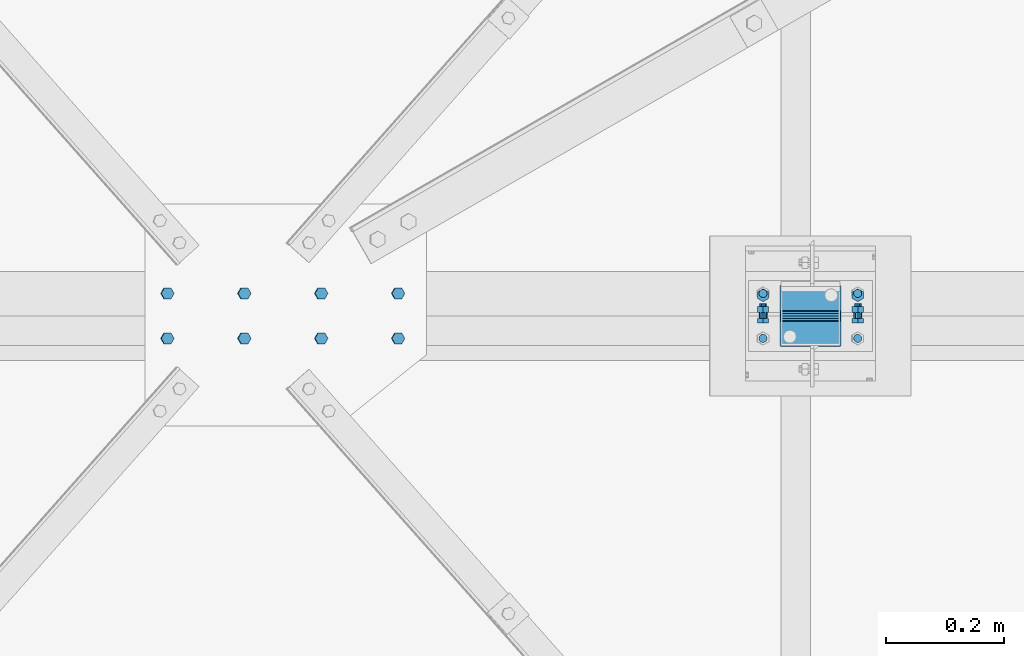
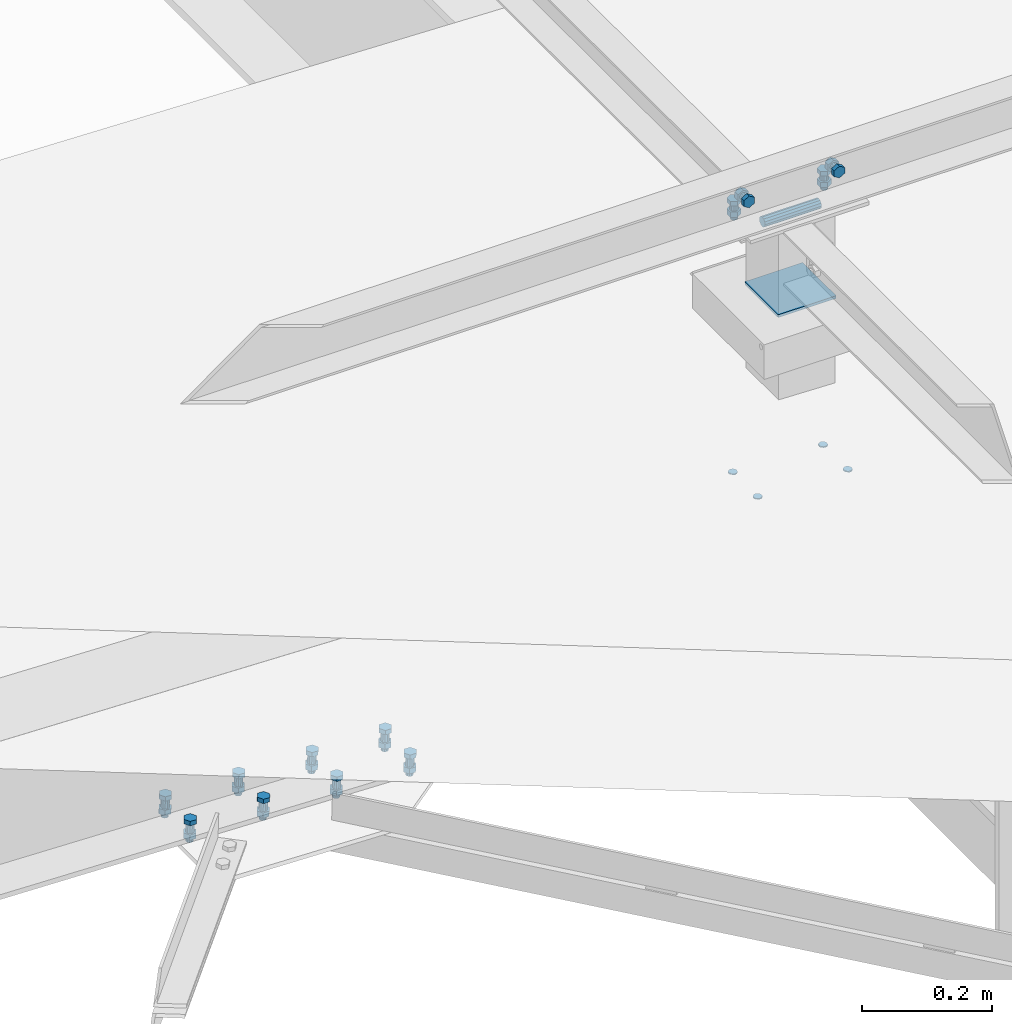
# One storey, part 332 of 3134: 6 mechanical fasteners, 4 elements without a shape of their own.
"""IFC2X3 building model written with IfcOpenShell, lengths in millimetres."""

import ifcopenshell
import ifcopenshell.guid

model = None  # the IFC model being written
_history = None  # IfcOwnerHistory: only IFC2X3 demands one
_inside = {}  # id of a spatial element -> (the spatial element, [elements in it])
_under = {}  # id of a project, library or spatial element -> (it, [spatial elements below it])
_declared = {}  # id of a project -> (the project, [libraries it declares])
_typed = {}  # id of a type object -> (the type object, [elements of that type])
_made_of = {}  # id of a material, layer set ... -> (it, [elements and type objects made of it])


def new_model(schema):
    """Start an empty IFC model of exactly this schema.

    Asked for "IFC4X3", IfcOpenShell would pick the latest addendum, in which some entities
    have other attributes; the version numbers below select the first issue.
    IFC2X3 requires an IfcOwnerHistory on every rooted entity: one is made here for all.
    """
    global model, _history
    if schema == "IFC4X3":
        model = ifcopenshell.file(schema_version=(4, 3, 0, 0))
    else:
        model = ifcopenshell.file(schema=schema)
    _inside.clear()
    _under.clear()
    _declared.clear()
    _typed.clear()
    _made_of.clear()
    _history = None
    if model.schema == "IFC2X3":
        org = make("IfcOrganization", Name="unknown")
        user = make(
            "IfcPersonAndOrganization",
            ThePerson=make("IfcPerson", FamilyName="unknown"),
            TheOrganization=org,
        )
        app = make(
            "IfcApplication",
            ApplicationDeveloper=org,
            Version="unknown",
            ApplicationFullName="unknown",
            ApplicationIdentifier="unknown",
        )
        _history = make(
            "IfcOwnerHistory",
            OwningUser=user,
            OwningApplication=app,
            ChangeAction="ADDED",
            CreationDate=0,
        )
    return model


def make(cls, **values):
    """One entity of the class cls with the attributes given. An attribute that is None is left unset."""
    return model.create_entity(
        cls, **{name: value for name, value in values.items() if value is not None}
    )


def rooted(cls, **values):
    """An entity with a GlobalId (a new one), such as an element, a storey or a relation."""
    return make(cls, GlobalId=ifcopenshell.guid.new(), OwnerHistory=_history, **values)


def si_unit(unit_type, name, prefix=None):
    """IfcSIUnit, for example si_unit("LENGTHUNIT", "METRE", prefix="MILLI")."""
    return make("IfcSIUnit", UnitType=unit_type, Prefix=prefix, Name=name)


def assignment(units):
    """IfcUnitAssignment: the units of a project."""
    return None if units is None else make("IfcUnitAssignment", Units=units)


def point(xyz):
    """IfcCartesianPoint."""
    return None if xyz is None else make("IfcCartesianPoint", Coordinates=xyz)


def direction(xyz):
    """IfcDirection."""
    return None if xyz is None else make("IfcDirection", DirectionRatios=xyz)


def frame(location, z_axis=None, x_axis=None):
    """IfcAxis2Placement3D, a coordinate frame: its origin and axes. An axis left out is left unset."""
    return make(
        "IfcAxis2Placement3D",
        Location=point(location),
        Axis=direction(z_axis),
        RefDirection=direction(x_axis),
    )


def origin_with_axes():
    """The frame at (0, 0, 0) with the z axis (0, 0, 1) and the x axis (1, 0, 0) written out."""
    return frame((0.0, 0.0, 0.0), z_axis=(0.0, 0.0, 1.0), x_axis=(1.0, 0.0, 0.0))


def place(relative_to, where):
    """IfcLocalPlacement: puts the frame where relative to a parent placement (None: the world)."""
    return make(
        "IfcLocalPlacement", PlacementRelTo=relative_to, RelativePlacement=where
    )


def context(
    kind, dimensions, precision=None, world=None, true_north=None, identifier=None
):
    """IfcGeometricRepresentationContext, for example the 3D "Model" context."""
    return make(
        "IfcGeometricRepresentationContext",
        ContextIdentifier=identifier,
        ContextType=kind,
        CoordinateSpaceDimension=dimensions,
        Precision=precision,
        WorldCoordinateSystem=world,
        TrueNorth=true_north,
    )


def subcontext(parent, identifier, kind, view, scale=None):
    """IfcGeometricRepresentationSubContext, for example "Body" below "Model"."""
    return make(
        "IfcGeometricRepresentationSubContext",
        ContextIdentifier=identifier,
        ContextType=kind,
        ParentContext=parent,
        TargetScale=scale,
        TargetView=view,
    )


def project(units=None, contexts=None):
    """IfcProject with its units and contexts."""
    return rooted(
        "IfcProject",
        Name="project",
        RepresentationContexts=contexts,
        UnitsInContext=assignment(units),
    )


def spatial(cls, under=None, at=None, **own):
    """A site, building, storey or space (cls), placed at a placement, below another one or the project."""
    s = rooted(cls, ObjectPlacement=at, **own)
    if under is not None:
        _under.setdefault(under.id(), (under, []))[1].append(s)
    return s


def faces_of(points, faces, orient=None, outer=None):
    """IfcFace entities. A face is a list of loops; a loop is a list of indices into points, from 0.

    orient and outer hold one flag for each loop. By default every Orientation is true, the
    first loop of a face is its IfcFaceOuterBound and the others are IfcFaceBound.
    """
    made = []
    for i, loops in enumerate(faces):
        bounds = []
        for j, loop in enumerate(loops):
            is_outer = j == 0 if outer is None else outer[i][j]
            bounds.append(
                make(
                    "IfcFaceOuterBound" if is_outer else "IfcFaceBound",
                    Bound=make("IfcPolyLoop", Polygon=[points[k] for k in loop]),
                    Orientation=True if orient is None else orient[i][j],
                )
            )
        made.append(make("IfcFace", Bounds=bounds))
    return made


def faceted_brep(points, faces, orient=None, outer=None, voids=None):
    """IfcFacetedBrep: a solid bounded by flat faces; with voids (closed shells), ...WithVoids."""
    shared = [point(p) for p in points]
    hull = make("IfcClosedShell", CfsFaces=faces_of(shared, faces, orient, outer))
    if voids is None:
        return make("IfcFacetedBrep", Outer=hull)
    return make(
        "IfcFacetedBrepWithVoids",
        Outer=hull,
        Voids=[
            make(cls, CfsFaces=faces_of(shared, fs, o, b)) for cls, fs, o, b in voids
        ],
    )


def shape(context_of_items, identifier, shape_type, items):
    """IfcShapeRepresentation: the items that make up one representation, for example the "Body"."""
    return make(
        "IfcShapeRepresentation",
        ContextOfItems=context_of_items,
        RepresentationIdentifier=identifier,
        RepresentationType=shape_type,
        Items=items,
    )


def source(mapping_origin, context_of_items, identifier, shape_type, items):
    """IfcRepresentationMap: a shape defined once, which mapped items show again and again."""
    return make(
        "IfcRepresentationMap",
        MappingOrigin=mapping_origin,
        MappedRepresentation=shape(context_of_items, identifier, shape_type, items),
    )


def transform(
    local_origin,
    x_axis=None,
    y_axis=None,
    z_axis=None,
    scale=None,
    scale2=None,
    scale3=None,
    uniform=True,
):
    """IfcCartesianTransformationOperator3D, or its non-uniform kind. x_axis, y_axis, z_axis: its Axis1, 2, 3."""
    if uniform:
        return make(
            "IfcCartesianTransformationOperator3D",
            Axis1=direction(x_axis),
            Axis2=direction(y_axis),
            LocalOrigin=point(local_origin),
            Scale=scale,
            Axis3=direction(z_axis),
        )
    return make(
        "IfcCartesianTransformationOperator3DnonUniform",
        Axis1=direction(x_axis),
        Axis2=direction(y_axis),
        LocalOrigin=point(local_origin),
        Scale=scale,
        Axis3=direction(z_axis),
        Scale2=scale2,
        Scale3=scale3,
    )


def mapped(mapping_source, mapping_target):
    """IfcMappedItem: shows the shape of a source again, moved by a transform."""
    return make(
        "IfcMappedItem", MappingSource=mapping_source, MappingTarget=mapping_target
    )


def material(Name=None, Category=None):
    """IfcMaterial."""
    return make("IfcMaterial", Name=Name, Category=Category)


def made_of(thing, what):
    """Note that an element or type object is made of a material, layer set ...; save() writes the relation."""
    if what is not None:
        _made_of.setdefault(what.id(), (what, []))[1].append(thing)
    return thing


def type_object(cls, material=None, **own):
    """A type object (cls), such as IfcWallType, which elements share."""
    return made_of(rooted(cls, **own), material)


def element(
    cls,
    number,
    at=None,
    inside=None,
    cuts=None,
    type_object=None,
    material=None,
    context=None,
    identifier="Body",
    shape_type=None,
    held_by="IfcProductDefinitionShape",
    body=None,
    shapes=None,
    **own,
):
    """One element of the class cls, such as IfcWall. Its Tag is "e" and its number.

    at: its placement. inside: the storey or other place that contains it. cuts: it is an
    opening in that element (IfcRelVoidsElement). A single representation is given by context,
    identifier, shape_type and body (its items); several are given by shapes. held_by: the class
    of the entity that holds the representations. save() writes the other relations.
    """
    e = rooted(cls, Tag="e%d" % number, ObjectPlacement=at, **own)
    if body is not None:
        shapes = [shape(context, identifier, shape_type, body)]
    if shapes is not None:
        e.Representation = make(held_by, Representations=shapes)
    if inside is not None:
        _inside.setdefault(inside.id(), (inside, []))[1].append(e)
    if cuts is not None:
        rooted(
            "IfcRelVoidsElement", RelatingBuildingElement=cuts, RelatedOpeningElement=e
        )
    if type_object is not None:
        _typed.setdefault(type_object.id(), (type_object, []))[1].append(e)
    return made_of(e, material)


def aggregate(whole, parts):
    """IfcRelAggregates: a whole, such as a stair, and the parts it consists of."""
    return rooted("IfcRelAggregates", RelatingObject=whole, RelatedObjects=parts)


def save(model, path):
    """Write the relations noted so far, then the file.

    IfcRelAggregates (storeys below a building ...), IfcRelContainedInSpatialStructure (elements
    in a storey), IfcRelDefinesByType, IfcRelAssociatesMaterial and IfcRelDeclares: one each for
    every whole, place, type object, material and project.
    """
    for whole, parts in _under.values():
        aggregate(whole, parts)
    for where, things in _inside.values():
        rooted(
            "IfcRelContainedInSpatialStructure",
            RelatedElements=things,
            RelatingStructure=where,
        )
    for kind, things in _typed.values():
        rooted("IfcRelDefinesByType", RelatedObjects=things, RelatingType=kind)
    for what, things in _made_of.values():
        rooted("IfcRelAssociatesMaterial", RelatedObjects=things, RelatingMaterial=what)
    for by, libraries in _declared.values():
        rooted("IfcRelDeclares", RelatingContext=by, RelatedDefinitions=libraries)
    model.write(path)


model = new_model("IFC2X3")

# Units and contexts
model_context = context("Model", 3, precision=1e-05, world=origin_with_axes())
body_context = subcontext(model_context, "Body", "Model", "MODEL_VIEW")
ifc_project = project(units=[si_unit("LENGTHUNIT", "METRE", prefix="MILLI"), si_unit("AREAUNIT", "SQUARE_METRE"), si_unit("VOLUMEUNIT", "CUBIC_METRE"), si_unit("MASSUNIT", "GRAM", prefix="KILO"), si_unit("TIMEUNIT", "SECOND"), si_unit("PLANEANGLEUNIT", "RADIAN"), si_unit("SOLIDANGLEUNIT", "STERADIAN"), si_unit("THERMODYNAMICTEMPERATUREUNIT", "DEGREE_CELSIUS"), si_unit("LUMINOUSINTENSITYUNIT", "LUMEN")], contexts=[model_context])

# Site, building, storey
site_placement = place(None, origin_with_axes())
site = spatial("IfcSite", under=ifc_project, at=site_placement, CompositionType="ELEMENT")
building_placement = place(site_placement, origin_with_axes())
building = spatial("IfcBuilding", under=site, at=building_placement, Name="Undefined", CompositionType="ELEMENT")
storey_placement = place(building_placement, origin_with_axes())
storey = spatial("IfcBuildingStorey", under=building, at=storey_placement, Name="Undefined", CompositionType="ELEMENT", Elevation=0.0)

# Assembly, mechanical fastener
assembly_1_placement = place(storey_placement, origin_with_axes())
assembly_1 = element("IfcElementAssembly", 1, at=assembly_1_placement, inside=storey, AssemblyPlace="NOTDEFINED", PredefinedType="RIGID_FRAME")
ifc_material_1 = material(Name="8.8")
mechanical_fastener_type = type_object("IfcMechanicalFastenerType", Name="Bolt assembly")
shared_shape_1 = source(origin_with_axes(), body_context, "Body", "Brep", [
    faceted_brep([(10.9696551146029, -14.0, 0.0), (5.48482755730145, -14.0, 9.5), (-5.48482755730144, -14.0, 9.5), (-10.9696551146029, -14.0, 1.34339530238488e-15), (-5.48482755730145, -14.0, -9.5), (5.48482755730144, -14.0, -9.50000000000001), (5.48482755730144, -6.0, -9.50000000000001), (-5.48482755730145, -6.0, -9.5), (-10.9696551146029, -6.0, 1.34339530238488e-15), (-5.48482755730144, -6.0, 9.5), (5.48482755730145, -6.0, 9.5), (10.9696551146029, -6.0, 0.0), (6.0, -6.0, 0.0), (5.19615242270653, -6.0, 3.00000000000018), (2.99999999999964, -6.0, 5.19615242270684), (-6.21801588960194e-13, -6.0, 6.0), (-3.00000000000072, -6.0, 5.19615242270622), (-5.19615242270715, -6.0, 2.9999999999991), (-6.0, -6.0, -1.24360317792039e-12), (-5.19615242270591, -6.0, -3.00000000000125), (-2.99999999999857, -6.0, -5.19615242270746), (1.85874342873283e-12, -6.0, -6.0), (3.00000000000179, -6.0, -5.1961524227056), (5.19615242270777, -6.0, -2.99999999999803), (5.19615242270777, 24.0, -2.99999999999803), (3.00000000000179, 24.0, -5.1961524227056), (1.85874342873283e-12, 24.0, -6.0), (-2.99999999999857, 24.0, -5.19615242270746), (-5.19615242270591, 24.0, -3.00000000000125), (-6.0, 24.0, -1.24360317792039e-12), (-5.19615242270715, 24.0, 2.9999999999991), (-3.00000000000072, 24.0, 5.19615242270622), (-6.21801588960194e-13, 24.0, 6.0), (2.99999999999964, 24.0, 5.19615242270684), (5.19615242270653, 24.0, 3.00000000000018), (6.0, 24.0, 0.0), (10.9696551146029, 6.00000000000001, 0.0), (5.48482755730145, 6.00000000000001, 9.5), (-5.48482755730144, 6.00000000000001, 9.5), (-10.9696551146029, 6.00000000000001, 1.34339530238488e-15), (-5.48482755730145, 6.00000000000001, -9.5), (5.48482755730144, 6.00000000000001, -9.50000000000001), (5.48482755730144, 16.0, -9.50000000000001), (-5.48482755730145, 16.0, -9.5), (-10.9696551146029, 16.0, 1.34339530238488e-15), (-5.48482755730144, 16.0, 9.5), (5.48482755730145, 16.0, 9.5), (10.9696551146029, 16.0, 0.0)], [[[0, 1, 2, 3, 4, 5]], [[6, 7, 8, 9, 10, 11]], [[0, 11, 10, 1]], [[1, 10, 9, 2]], [[2, 9, 8, 3]], [[3, 8, 7, 4]], [[4, 7, 6, 5]], [[5, 6, 11, 0]], [[12, 13, 14, 15, 16, 17, 18, 19, 20, 21, 22, 23]], [[24, 25, 26, 27, 28, 29, 30, 31, 32, 33, 34, 35]], [[12, 35, 34, 13]], [[13, 34, 33, 14]], [[14, 33, 32, 15]], [[15, 32, 31, 16]], [[16, 31, 30, 17]], [[17, 30, 29, 18]], [[18, 29, 28, 19]], [[19, 28, 27, 20]], [[20, 27, 26, 21]], [[21, 26, 25, 22]], [[22, 25, 24, 23]], [[23, 24, 35, 12]], [[36, 37, 38, 39, 40, 41]], [[42, 43, 44, 45, 46, 47]], [[36, 47, 46, 37]], [[37, 46, 45, 38]], [[38, 45, 44, 39]], [[39, 44, 43, 40]], [[40, 43, 42, 41]], [[41, 42, 47, 36]]]),
    faceted_brep([(7.0, -0.1, 0.0), (6.06217782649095, -0.1, 3.50000000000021), (3.49999999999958, -0.1, 6.06217782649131), (-7.25435187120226e-13, -0.1, 7.0), (-3.50000000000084, -0.1, 6.06217782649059), (-6.06217782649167, -0.1, 3.49999999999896), (-7.0, -0.1, -1.45087037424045e-12), (-6.06217782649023, -0.1, -3.50000000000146), (-3.49999999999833, -0.1, -6.06217782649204), (2.1685340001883e-12, -0.1, -7.0), (3.50000000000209, -0.1, -6.06217782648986), (6.0621778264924, -0.1, -3.4999999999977), (6.0621778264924, 6.00000000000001, -3.4999999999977), (3.50000000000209, 6.00000000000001, -6.06217782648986), (2.1685340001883e-12, 6.00000000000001, -7.0), (-3.49999999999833, 6.00000000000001, -6.06217782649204), (-6.06217782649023, 6.00000000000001, -3.50000000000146), (-7.0, 6.00000000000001, -1.45087037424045e-12), (-6.06217782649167, 6.00000000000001, 3.49999999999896), (-3.50000000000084, 6.00000000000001, 6.06217782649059), (-7.25435187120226e-13, 6.00000000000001, 7.0), (3.49999999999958, 6.00000000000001, 6.06217782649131), (6.06217782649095, 6.00000000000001, 3.50000000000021), (7.0, 6.00000000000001, 0.0), (7.0, -5.9, 0.0), (6.06217782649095, -5.9, 3.50000000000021), (3.49999999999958, -5.9, 6.06217782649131), (-7.25435187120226e-13, -5.9, 7.0), (-3.50000000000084, -5.9, 6.06217782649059), (-6.06217782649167, -5.9, 3.49999999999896), (-7.0, -5.9, -1.45087037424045e-12), (-6.06217782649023, -5.9, -3.50000000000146), (-3.49999999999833, -5.9, -6.06217782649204), (2.1685340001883e-12, -5.9, -7.0), (3.50000000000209, -5.9, -6.06217782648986), (6.0621778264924, -5.9, -3.4999999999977), (6.0621778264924, 0.0999999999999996, -3.4999999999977), (3.50000000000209, 0.0999999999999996, -6.06217782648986), (2.1685340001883e-12, 0.0999999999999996, -7.0), (-3.49999999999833, 0.0999999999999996, -6.06217782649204), (-6.06217782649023, 0.0999999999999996, -3.50000000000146), (-7.0, 0.0999999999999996, -1.45087037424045e-12), (-6.06217782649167, 0.0999999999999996, 3.49999999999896), (-3.50000000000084, 0.0999999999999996, 6.06217782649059), (-7.25435187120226e-13, 0.0999999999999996, 7.0), (3.49999999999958, 0.0999999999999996, 6.06217782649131), (6.06217782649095, 0.0999999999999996, 3.50000000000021), (7.0, 0.0999999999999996, 0.0)], [[[0, 1, 2, 3, 4, 5, 6, 7, 8, 9, 10, 11]], [[12, 13, 14, 15, 16, 17, 18, 19, 20, 21, 22, 23]], [[0, 23, 22, 1]], [[1, 22, 21, 2]], [[2, 21, 20, 3]], [[3, 20, 19, 4]], [[4, 19, 18, 5]], [[5, 18, 17, 6]], [[6, 17, 16, 7]], [[7, 16, 15, 8]], [[8, 15, 14, 9]], [[9, 14, 13, 10]], [[10, 13, 12, 11]], [[11, 12, 23, 0]], [[24, 25, 26, 27, 28, 29, 30, 31, 32, 33, 34, 35]], [[36, 37, 38, 39, 40, 41, 42, 43, 44, 45, 46, 47]], [[24, 47, 46, 25]], [[25, 46, 45, 26]], [[26, 45, 44, 27]], [[27, 44, 43, 28]], [[28, 43, 42, 29]], [[29, 42, 41, 30]], [[30, 41, 40, 31]], [[31, 40, 39, 32]], [[32, 39, 38, 33]], [[33, 38, 37, 34]], [[34, 37, 36, 35]], [[35, 36, 47, 24]]]),
])
mechanical_fastener_1_placement = place(assembly_1_placement, frame((70600.0, 12405.0, 5850.0), z_axis=(1.0, 0.0, 0.0), x_axis=(0.0, -1.0, 0.0)))
mechanical_fastener_1 = element("IfcMechanicalFastener", 2, at=mechanical_fastener_1_placement, type_object=mechanical_fastener_type, material=ifc_material_1, Name="Bolt assembly", NominalDiameter=12.0, NominalLength=30.0, context=body_context, shape_type="MappedRepresentation", body=[
    mapped(shared_shape_1, transform((0.0, -5.32963895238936e-10, -79.9999999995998))),
    mapped(shared_shape_1, transform((0.0, 5.3114490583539e-10, 79.9999999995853))),
])

assembly_2_placement = place(storey_placement, origin_with_axes())
assembly_2 = element("IfcElementAssembly", 3, at=assembly_2_placement, inside=storey, AssemblyPlace="NOTDEFINED", PredefinedType="RIGID_FRAME")
shared_shape_2 = source(origin_with_axes(), body_context, "Body", "Brep", [
    faceted_brep([(7.0, 13.0000253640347, 0.0), (6.06217782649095, 13.0000253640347, 3.50000000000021), (3.49999999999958, 13.0000253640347, 6.06217782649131), (-7.25435187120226e-13, 13.0000253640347, 7.0), (-3.50000000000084, 13.0000253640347, 6.06217782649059), (-6.06217782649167, 13.0000253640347, 3.49999999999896), (-7.0, 13.0000253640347, -1.45087037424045e-12), (-6.06217782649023, 13.0000253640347, -3.50000000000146), (-3.49999999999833, 13.0000253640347, -6.06217782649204), (2.1685340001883e-12, 13.0000253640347, -7.0), (3.50000000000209, 13.0000253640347, -6.06217782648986), (6.0621778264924, 13.0000253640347, -3.4999999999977), (6.0621778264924, 15.0999999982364, -3.4999999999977), (3.50000000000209, 15.0999999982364, -6.06217782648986), (2.1685340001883e-12, 15.0999999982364, -7.0), (-3.49999999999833, 15.0999999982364, -6.06217782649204), (-6.06217782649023, 15.0999999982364, -3.50000000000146), (-7.0, 15.0999999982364, -1.45087037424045e-12), (-6.06217782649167, 15.0999999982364, 3.49999999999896), (-3.50000000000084, 15.0999999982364, 6.06217782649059), (-7.25435187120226e-13, 15.0999999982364, 7.0), (3.49999999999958, 15.0999999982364, 6.06217782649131), (6.06217782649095, 15.0999999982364, 3.50000000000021), (7.0, 15.0999999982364, 0.0)], [[[0, 1, 2, 3, 4, 5, 6, 7, 8, 9, 10, 11]], [[12, 13, 14, 15, 16, 17, 18, 19, 20, 21, 22, 23]], [[0, 23, 22, 1]], [[1, 22, 21, 2]], [[2, 21, 20, 3]], [[3, 20, 19, 4]], [[4, 19, 18, 5]], [[5, 18, 17, 6]], [[6, 17, 16, 7]], [[7, 16, 15, 8]], [[8, 15, 14, 9]], [[9, 14, 13, 10]], [[10, 13, 12, 11]], [[11, 12, 23, 0]]]),
])
mechanical_fastener_2_placement = place(assembly_2_placement, frame((70599.3451187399, 12408.0, 5332.4572055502), z_axis=(-0.99951962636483, 0.0, 0.0309922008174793), x_axis=(0.0, -1.0, 0.0)))
mechanical_fastener_2 = element("IfcMechanicalFastener", 4, at=mechanical_fastener_2_placement, type_object=mechanical_fastener_type, material=ifc_material_1, Name="Bolt assembly", NominalDiameter=12.0, NominalLength=2.0, context=body_context, shape_type="MappedRepresentation", body=[
    mapped(shared_shape_2, transform((0.0, -5.32963895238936e-10, -79.9999999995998))),
    mapped(shared_shape_2, transform((76.0, -5.32963895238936e-10, -79.9999999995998))),
    mapped(shared_shape_2, transform((0.0, 5.3114490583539e-10, 79.9999999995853))),
    mapped(shared_shape_2, transform((76.0, 5.3114490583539e-10, 79.9999999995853))),
])
aggregate(assembly_2, [mechanical_fastener_2])

# Assembly, mechanical fasteners
assembly_3_placement = place(storey_placement, origin_with_axes())
assembly_3 = element("IfcElementAssembly", 5, at=assembly_3_placement, inside=storey, AssemblyPlace="NOTDEFINED", PredefinedType="RIGID_FRAME")
shared_shape_3 = source(origin_with_axes(), body_context, "Body", "Brep", [
    faceted_brep([(9.0, -50.0, 0.0), (7.79422863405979, -50.0, 4.50000000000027), (4.49999999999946, -50.0, 7.79422863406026), (-9.3270238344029e-13, -50.0, 9.0), (-4.50000000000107, -50.0, 7.79422863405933), (-7.79422863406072, -50.0, 4.49999999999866), (-9.0, -50.0, -1.86540476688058e-12), (-7.79422863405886, -50.0, -4.50000000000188), (-4.49999999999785, -50.0, -7.79422863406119), (2.78811514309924e-12, -50.0, -9.0), (4.50000000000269, -50.0, -7.7942286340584), (7.79422863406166, -50.0, -4.49999999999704), (7.79422863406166, 50.1, -4.49999999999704), (4.50000000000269, 50.1, -7.7942286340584), (2.78811514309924e-12, 50.1, -9.0), (-4.49999999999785, 50.1, -7.79422863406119), (-7.79422863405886, 50.1, -4.50000000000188), (-9.0, 50.1, -1.86540476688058e-12), (-7.79422863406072, 50.1, 4.49999999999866), (-4.50000000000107, 50.1, 7.79422863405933), (-9.3270238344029e-13, 50.1, 9.0), (4.49999999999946, 50.1, 7.79422863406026), (7.79422863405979, 50.1, 4.50000000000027), (9.0, 50.1, 0.0)], [[[0, 1, 2, 3, 4, 5, 6, 7, 8, 9, 10, 11]], [[12, 13, 14, 15, 16, 17, 18, 19, 20, 21, 22, 23]], [[0, 23, 22, 1]], [[1, 22, 21, 2]], [[2, 21, 20, 3]], [[3, 20, 19, 4]], [[4, 19, 18, 5]], [[5, 18, 17, 6]], [[6, 17, 16, 7]], [[7, 16, 15, 8]], [[8, 15, 14, 9]], [[9, 14, 13, 10]], [[10, 13, 12, 11]], [[11, 12, 23, 0]]]),
])
mechanical_fastener_3_placement = place(assembly_3_placement, frame((70600.0, 12370.0, 5830.0), z_axis=(0.0, 1.0, 0.0), x_axis=(0.0, 0.0, 1.0)))
mechanical_fastener_3 = element("IfcMechanicalFastener", 6, at=mechanical_fastener_3_placement, type_object=mechanical_fastener_type, material=ifc_material_1, Name="Bolt assembly", NominalDiameter=16.0, NominalLength=100.0, context=body_context, shape_type="MappedRepresentation", body=[
    mapped(shared_shape_3, transform((0.0, 0.0, 0.0))),
])
ifc_material_2 = material(Name="6.8")
shared_shape_4 = source(origin_with_axes(), body_context, "Body", "Brep", [
    faceted_brep([(51.5, 1.36424205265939e-12, 50.0), (51.3858192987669, 1.36424205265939e-12, 50.5740251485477), (51.0606601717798, 1.36424205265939e-12, 51.0606601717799), (50.5740251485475, 1.36424205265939e-12, 51.385819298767), (-50.0000000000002, 1.36424205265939e-12, 51.5), (-50.7500000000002, 1.36424205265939e-12, 51.2990381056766), (-51.2990381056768, 1.36424205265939e-12, 50.7499999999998), (-51.5, 1.36424205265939e-12, 49.9999999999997), (-51.5, 1.36424205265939e-12, -50.0000000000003), (-51.2990381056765, 1.36424205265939e-12, -50.7500000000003), (-50.7499999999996, 1.36424205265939e-12, -51.2990381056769), (-49.9999999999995, 1.36424205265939e-12, -51.5), (50.0000000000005, 1.36424205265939e-12, -51.5), (50.7500000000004, 1.36424205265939e-12, -51.2990381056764), (51.2990381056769, 1.36424205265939e-12, -50.7499999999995), (51.5, 1.36424205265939e-12, -49.9999999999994), (51.5, 5.10000000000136, -49.9999999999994), (51.2990381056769, 5.10000000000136, -50.7499999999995), (50.7500000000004, 5.10000000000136, -51.2990381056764), (50.0000000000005, 5.10000000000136, -51.5), (-49.9999999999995, 5.10000000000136, -51.5), (-50.7499999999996, 5.10000000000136, -51.2990381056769), (-51.2990381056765, 5.10000000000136, -50.7500000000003), (-51.5, 5.10000000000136, -50.0000000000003), (-51.5, 5.10000000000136, 49.9999999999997), (-51.2990381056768, 5.10000000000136, 50.7499999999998), (-50.7500000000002, 5.10000000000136, 51.2990381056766), (-50.0000000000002, 5.10000000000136, 51.5), (50.5740251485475, 5.10000000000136, 51.385819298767), (51.0606601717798, 5.10000000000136, 51.0606601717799), (51.3858192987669, 5.10000000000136, 50.5740251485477), (51.5, 5.10000000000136, 50.0)], [[[0, 1, 2, 3, 4, 5, 6, 7, 8, 9, 10, 11, 12, 13, 14, 15]], [[16, 17, 18, 19, 20, 21, 22, 23, 24, 25, 26, 27, 28, 29, 30, 31]], [[0, 31, 30, 1]], [[1, 30, 29, 2]], [[2, 29, 28, 3]], [[3, 28, 27, 4]], [[4, 27, 26, 5]], [[5, 26, 25, 6]], [[6, 25, 24, 7]], [[7, 24, 23, 8]], [[8, 23, 22, 9]], [[9, 22, 21, 10]], [[10, 21, 20, 11]], [[11, 20, 19, 12]], [[12, 19, 18, 13]], [[13, 18, 17, 14]], [[14, 17, 16, 15]], [[15, 16, 31, 0]]]),
])
mechanical_fastener_4_placement = place(assembly_3_placement, frame((70600.0, 12370.0, 5687.16), z_axis=(0.0, -1.0, 0.0), x_axis=(-1.0, 0.0, 0.0)))
mechanical_fastener_4 = element("IfcMechanicalFastener", 7, at=mechanical_fastener_4_placement, type_object=mechanical_fastener_type, material=ifc_material_2, Name="Bolt assembly", NominalDiameter=10.0, NominalLength=5.0, context=body_context, shape_type="MappedRepresentation", body=[
    mapped(shared_shape_4, transform((0.0, 0.0, 0.0))),
])
aggregate(assembly_3, [mechanical_fastener_3, mechanical_fastener_4])

# Mechanical fastener
shared_shape_5 = source(origin_with_axes(), body_context, "Body", "Brep", [
    faceted_brep([(10.9696551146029, -12.0, 0.0), (5.48482755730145, -12.0, 9.5), (-5.48482755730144, -12.0, 9.5), (-10.9696551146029, -12.0, 1.34339530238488e-15), (-5.48482755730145, -12.0, -9.5), (5.48482755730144, -12.0, -9.50000000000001), (5.48482755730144, -4.0, -9.50000000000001), (-5.48482755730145, -4.0, -9.5), (-10.9696551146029, -4.0, 1.34339530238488e-15), (-5.48482755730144, -4.0, 9.5), (5.48482755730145, -4.0, 9.5), (10.9696551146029, -4.0, 0.0), (6.0, -4.0, 0.0), (5.19615242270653, -4.0, 3.00000000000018), (2.99999999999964, -4.0, 5.19615242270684), (-6.21801588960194e-13, -4.0, 6.0), (-3.00000000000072, -4.0, 5.19615242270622), (-5.19615242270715, -4.0, 2.9999999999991), (-6.0, -4.0, -1.24360317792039e-12), (-5.19615242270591, -4.0, -3.00000000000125), (-2.99999999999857, -4.0, -5.19615242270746), (1.85874342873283e-12, -4.0, -6.0), (3.00000000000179, -4.0, -5.1961524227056), (5.19615242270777, -4.0, -2.99999999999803), (5.19615242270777, 21.0, -2.99999999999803), (3.00000000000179, 21.0, -5.1961524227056), (1.85874342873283e-12, 21.0, -6.0), (-2.99999999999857, 21.0, -5.19615242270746), (-5.19615242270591, 21.0, -3.00000000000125), (-6.0, 21.0, -1.24360317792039e-12), (-5.19615242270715, 21.0, 2.9999999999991), (-3.00000000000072, 21.0, 5.19615242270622), (-6.21801588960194e-13, 21.0, 6.0), (2.99999999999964, 21.0, 5.19615242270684), (5.19615242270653, 21.0, 3.00000000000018), (6.0, 21.0, 0.0), (10.9696551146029, 6.00000000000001, 0.0), (5.48482755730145, 6.00000000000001, 9.5), (-5.48482755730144, 6.00000000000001, 9.5), (-10.9696551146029, 6.00000000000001, 1.34339530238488e-15), (-5.48482755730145, 6.00000000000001, -9.5), (5.48482755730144, 6.00000000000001, -9.50000000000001), (5.48482755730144, 16.0, -9.50000000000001), (-5.48482755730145, 16.0, -9.5), (-10.9696551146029, 16.0, 1.34339530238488e-15), (-5.48482755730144, 16.0, 9.5), (5.48482755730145, 16.0, 9.5), (10.9696551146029, 16.0, 0.0)], [[[0, 1, 2, 3, 4, 5]], [[6, 7, 8, 9, 10, 11]], [[0, 11, 10, 1]], [[1, 10, 9, 2]], [[2, 9, 8, 3]], [[3, 8, 7, 4]], [[4, 7, 6, 5]], [[5, 6, 11, 0]], [[12, 13, 14, 15, 16, 17, 18, 19, 20, 21, 22, 23]], [[24, 25, 26, 27, 28, 29, 30, 31, 32, 33, 34, 35]], [[12, 35, 34, 13]], [[13, 34, 33, 14]], [[14, 33, 32, 15]], [[15, 32, 31, 16]], [[16, 31, 30, 17]], [[17, 30, 29, 18]], [[18, 29, 28, 19]], [[19, 28, 27, 20]], [[20, 27, 26, 21]], [[21, 26, 25, 22]], [[22, 25, 24, 23]], [[23, 24, 35, 12]], [[36, 37, 38, 39, 40, 41]], [[42, 43, 44, 45, 46, 47]], [[36, 47, 46, 37]], [[37, 46, 45, 38]], [[38, 45, 44, 39]], [[39, 44, 43, 40]], [[40, 43, 42, 41]], [[41, 42, 47, 36]]]),
    faceted_brep([(7.0, -3.9, 0.0), (6.06217782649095, -3.9, 3.50000000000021), (3.49999999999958, -3.9, 6.06217782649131), (-7.25435187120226e-13, -3.9, 7.0), (-3.50000000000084, -3.9, 6.06217782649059), (-6.06217782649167, -3.9, 3.49999999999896), (-7.0, -3.9, -1.45087037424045e-12), (-6.06217782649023, -3.9, -3.50000000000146), (-3.49999999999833, -3.9, -6.06217782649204), (2.1685340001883e-12, -3.9, -7.0), (3.50000000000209, -3.9, -6.06217782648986), (6.0621778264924, -3.9, -3.4999999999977), (6.0621778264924, 0.0999999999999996, -3.4999999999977), (3.50000000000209, 0.0999999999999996, -6.06217782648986), (2.1685340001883e-12, 0.0999999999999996, -7.0), (-3.49999999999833, 0.0999999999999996, -6.06217782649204), (-6.06217782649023, 0.0999999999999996, -3.50000000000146), (-7.0, 0.0999999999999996, -1.45087037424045e-12), (-6.06217782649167, 0.0999999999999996, 3.49999999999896), (-3.50000000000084, 0.0999999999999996, 6.06217782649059), (-7.25435187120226e-13, 0.0999999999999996, 7.0), (3.49999999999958, 0.0999999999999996, 6.06217782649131), (6.06217782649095, 0.0999999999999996, 3.50000000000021), (7.0, 0.0999999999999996, 0.0), (7.0, -0.1, 0.0), (6.06217782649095, -0.1, 3.50000000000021), (3.49999999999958, -0.1, 6.06217782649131), (-7.25435187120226e-13, -0.1, 7.0), (-3.50000000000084, -0.1, 6.06217782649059), (-6.06217782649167, -0.1, 3.49999999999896), (-7.0, -0.1, -1.45087037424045e-12), (-6.06217782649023, -0.1, -3.50000000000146), (-3.49999999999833, -0.1, -6.06217782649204), (2.1685340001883e-12, -0.1, -7.0), (3.50000000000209, -0.1, -6.06217782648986), (6.0621778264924, -0.1, -3.4999999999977), (6.0621778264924, 6.00000000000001, -3.4999999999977), (3.50000000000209, 6.00000000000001, -6.06217782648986), (2.1685340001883e-12, 6.00000000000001, -7.0), (-3.49999999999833, 6.00000000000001, -6.06217782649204), (-6.06217782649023, 6.00000000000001, -3.50000000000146), (-7.0, 6.00000000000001, -1.45087037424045e-12), (-6.06217782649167, 6.00000000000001, 3.49999999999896), (-3.50000000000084, 6.00000000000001, 6.06217782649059), (-7.25435187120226e-13, 6.00000000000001, 7.0), (3.49999999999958, 6.00000000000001, 6.06217782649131), (6.06217782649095, 6.00000000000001, 3.50000000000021), (7.0, 6.00000000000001, 0.0)], [[[0, 1, 2, 3, 4, 5, 6, 7, 8, 9, 10, 11]], [[12, 13, 14, 15, 16, 17, 18, 19, 20, 21, 22, 23]], [[0, 23, 22, 1]], [[1, 22, 21, 2]], [[2, 21, 20, 3]], [[3, 20, 19, 4]], [[4, 19, 18, 5]], [[5, 18, 17, 6]], [[6, 17, 16, 7]], [[7, 16, 15, 8]], [[8, 15, 14, 9]], [[9, 14, 13, 10]], [[10, 13, 12, 11]], [[11, 12, 23, 0]], [[24, 25, 26, 27, 28, 29, 30, 31, 32, 33, 34, 35]], [[36, 37, 38, 39, 40, 41, 42, 43, 44, 45, 46, 47]], [[24, 47, 46, 25]], [[25, 46, 45, 26]], [[26, 45, 44, 27]], [[27, 44, 43, 28]], [[28, 43, 42, 29]], [[29, 42, 41, 30]], [[30, 41, 40, 31]], [[31, 40, 39, 32]], [[32, 39, 38, 33]], [[33, 38, 37, 34]], [[34, 37, 36, 35]], [[35, 36, 47, 24]]]),
])
mechanical_fastener_5_placement = place(assembly_1_placement, frame((70600.0, 12370.0, 5885.0), z_axis=(1.0, 0.0, 0.0), x_axis=(0.0, 0.0, -1.0)))
mechanical_fastener_5 = element("IfcMechanicalFastener", 8, at=mechanical_fastener_5_placement, type_object=mechanical_fastener_type, material=ifc_material_1, Name="Bolt assembly", NominalDiameter=12.0, NominalLength=25.0, context=body_context, shape_type="MappedRepresentation", body=[
    mapped(shared_shape_5, transform((0.0, -5.32963895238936e-10, -79.9999999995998))),
    mapped(shared_shape_5, transform((0.0, 5.3114490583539e-10, 79.9999999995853))),
])

aggregate(assembly_1, [mechanical_fastener_5, mechanical_fastener_1])

# Assembly, mechanical fastener
assembly_4_placement = place(storey_placement, origin_with_axes())
assembly_4 = element("IfcElementAssembly", 9, at=assembly_4_placement, inside=storey, Name="300", AssemblyPlace="NOTDEFINED", PredefinedType="RIGID_FRAME")
shared_shape_6 = source(origin_with_axes(), body_context, "Body", "Brep", [
    faceted_brep([(10.9696551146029, -21.2000017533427, 0.0), (5.48482755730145, -21.2000017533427, 9.5), (-5.48482755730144, -21.2000017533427, 9.5), (-10.9696551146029, -21.2000017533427, 1.34339530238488e-15), (-5.48482755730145, -21.2000017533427, -9.5), (5.48482755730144, -21.2000017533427, -9.50000000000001), (5.48482755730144, -13.2000017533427, -9.50000000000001), (-5.48482755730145, -13.2000017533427, -9.5), (-10.9696551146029, -13.2000017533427, 1.34339530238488e-15), (-5.48482755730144, -13.2000017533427, 9.5), (5.48482755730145, -13.2000017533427, 9.5), (10.9696551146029, -13.2000017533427, 0.0), (6.0, -13.2000017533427, 0.0), (5.19615242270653, -13.2000017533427, 3.00000000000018), (2.99999999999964, -13.2000017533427, 5.19615242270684), (-6.21801588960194e-13, -13.2000017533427, 6.0), (-3.00000000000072, -13.2000017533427, 5.19615242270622), (-5.19615242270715, -13.2000017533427, 2.9999999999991), (-6.0, -13.2000017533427, -1.24360317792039e-12), (-5.19615242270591, -13.2000017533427, -3.00000000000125), (-2.99999999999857, -13.2000017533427, -5.19615242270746), (1.85874342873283e-12, -13.2000017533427, -6.0), (3.00000000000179, -13.2000017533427, -5.1961524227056), (5.19615242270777, -13.2000017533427, -2.99999999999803), (5.19615242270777, 21.7999982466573, -2.99999999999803), (3.00000000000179, 21.7999982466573, -5.1961524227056), (1.85874342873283e-12, 21.7999982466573, -6.0), (-2.99999999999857, 21.7999982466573, -5.19615242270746), (-5.19615242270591, 21.7999982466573, -3.00000000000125), (-6.0, 21.7999982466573, -1.24360317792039e-12), (-5.19615242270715, 21.7999982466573, 2.9999999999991), (-3.00000000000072, 21.7999982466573, 5.19615242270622), (-6.21801588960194e-13, 21.7999982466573, 6.0), (2.99999999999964, 21.7999982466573, 5.19615242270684), (5.19615242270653, 21.7999982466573, 3.00000000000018), (6.0, 21.7999982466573, 0.0), (10.9696551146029, 4.00000000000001, 0.0), (5.48482755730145, 4.00000000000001, 9.5), (-5.48482755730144, 4.00000000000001, 9.5), (-10.9696551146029, 4.00000000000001, 1.34339530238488e-15), (-5.48482755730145, 4.00000000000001, -9.5), (5.48482755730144, 4.00000000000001, -9.50000000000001), (5.48482755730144, 14.0, -9.50000000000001), (-5.48482755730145, 14.0, -9.5), (-10.9696551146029, 14.0, 1.34339530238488e-15), (-5.48482755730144, 14.0, 9.5), (5.48482755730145, 14.0, 9.5), (10.9696551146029, 14.0, 0.0)], [[[0, 1, 2, 3, 4, 5]], [[6, 7, 8, 9, 10, 11]], [[0, 11, 10, 1]], [[1, 10, 9, 2]], [[2, 9, 8, 3]], [[3, 8, 7, 4]], [[4, 7, 6, 5]], [[5, 6, 11, 0]], [[12, 13, 14, 15, 16, 17, 18, 19, 20, 21, 22, 23]], [[24, 25, 26, 27, 28, 29, 30, 31, 32, 33, 34, 35]], [[12, 35, 34, 13]], [[13, 34, 33, 14]], [[14, 33, 32, 15]], [[15, 32, 31, 16]], [[16, 31, 30, 17]], [[17, 30, 29, 18]], [[18, 29, 28, 19]], [[19, 28, 27, 20]], [[20, 27, 26, 21]], [[21, 26, 25, 22]], [[22, 25, 24, 23]], [[23, 24, 35, 12]], [[36, 37, 38, 39, 40, 41]], [[42, 43, 44, 45, 46, 47]], [[36, 47, 46, 37]], [[37, 46, 45, 38]], [[38, 45, 44, 39]], [[39, 44, 43, 40]], [[40, 43, 42, 41]], [[41, 42, 47, 36]]]),
    faceted_brep([(7.0, -4.09998541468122, 0.0), (6.06217782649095, -4.09998541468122, 3.50000000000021), (3.49999999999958, -4.09998541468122, 6.06217782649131), (-7.25435187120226e-13, -4.09998541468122, 7.0), (-3.50000000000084, -4.09998541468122, 6.06217782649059), (-6.06217782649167, -4.09998541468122, 3.49999999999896), (-7.0, -4.09998541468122, -1.45087037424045e-12), (-6.06217782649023, -4.09998541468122, -3.50000000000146), (-3.49999999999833, -4.09998541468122, -6.06217782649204), (2.1685340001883e-12, -4.09998541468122, -7.0), (3.50000000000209, -4.09998541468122, -6.06217782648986), (6.0621778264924, -4.09998541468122, -3.4999999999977), (6.0621778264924, 4.00000000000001, -3.4999999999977), (3.50000000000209, 4.00000000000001, -6.06217782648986), (2.1685340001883e-12, 4.00000000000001, -7.0), (-3.49999999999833, 4.00000000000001, -6.06217782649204), (-6.06217782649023, 4.00000000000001, -3.50000000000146), (-7.0, 4.00000000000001, -1.45087037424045e-12), (-6.06217782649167, 4.00000000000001, 3.49999999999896), (-3.50000000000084, 4.00000000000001, 6.06217782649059), (-7.25435187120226e-13, 4.00000000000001, 7.0), (3.49999999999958, 4.00000000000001, 6.06217782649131), (6.06217782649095, 4.00000000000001, 3.50000000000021), (7.0, 4.00000000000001, 0.0), (7.0, -13.1000017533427, 0.0), (6.06217782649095, -13.1000017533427, 3.50000000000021), (3.49999999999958, -13.1000017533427, 6.06217782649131), (-7.25435187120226e-13, -13.1000017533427, 7.0), (-3.50000000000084, -13.1000017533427, 6.06217782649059), (-6.06217782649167, -13.1000017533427, 3.49999999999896), (-7.0, -13.1000017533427, -1.45087037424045e-12), (-6.06217782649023, -13.1000017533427, -3.50000000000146), (-3.49999999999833, -13.1000017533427, -6.06217782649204), (2.1685340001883e-12, -13.1000017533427, -7.0), (3.50000000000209, -13.1000017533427, -6.06217782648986), (6.0621778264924, -13.1000017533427, -3.4999999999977), (6.0621778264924, -3.9, -3.4999999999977), (3.50000000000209, -3.9, -6.06217782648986), (2.1685340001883e-12, -3.9, -7.0), (-3.49999999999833, -3.9, -6.06217782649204), (-6.06217782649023, -3.9, -3.50000000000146), (-7.0, -3.9, -1.45087037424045e-12), (-6.06217782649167, -3.9, 3.49999999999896), (-3.50000000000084, -3.9, 6.06217782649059), (-7.25435187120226e-13, -3.9, 7.0), (3.49999999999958, -3.9, 6.06217782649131), (6.06217782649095, -3.9, 3.50000000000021), (7.0, -3.9, 0.0)], [[[0, 1, 2, 3, 4, 5, 6, 7, 8, 9, 10, 11]], [[12, 13, 14, 15, 16, 17, 18, 19, 20, 21, 22, 23]], [[0, 23, 22, 1]], [[1, 22, 21, 2]], [[2, 21, 20, 3]], [[3, 20, 19, 4]], [[4, 19, 18, 5]], [[5, 18, 17, 6]], [[6, 17, 16, 7]], [[7, 16, 15, 8]], [[8, 15, 14, 9]], [[9, 14, 13, 10]], [[10, 13, 12, 11]], [[11, 12, 23, 0]], [[24, 25, 26, 27, 28, 29, 30, 31, 32, 33, 34, 35]], [[36, 37, 38, 39, 40, 41, 42, 43, 44, 45, 46, 47]], [[24, 47, 46, 25]], [[25, 46, 45, 26]], [[26, 45, 44, 27]], [[27, 44, 43, 28]], [[28, 43, 42, 29]], [[29, 42, 41, 30]], [[30, 41, 40, 31]], [[31, 40, 39, 32]], [[32, 39, 38, 33]], [[33, 38, 37, 34]], [[34, 37, 36, 35]], [[35, 36, 47, 24]]]),
])
mechanical_fastener_6_placement = place(assembly_4_placement, frame((69903.1720327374, 12369.9999999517, 5065.90710380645), z_axis=(0.0, -1.0, 0.0), x_axis=(-0.999519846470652, 0.0, 0.0309851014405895)))
mechanical_fastener_6 = element("IfcMechanicalFastener", 10, at=mechanical_fastener_6_placement, type_object=mechanical_fastener_type, material=ifc_material_1, Name="Bolt assembly", NominalDiameter=12.0, NominalLength=35.0, context=body_context, shape_type="MappedRepresentation", body=[
    mapped(shared_shape_6, transform((0.0, 0.0, -38.0))),
    mapped(shared_shape_6, transform((129.999999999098, -1.0113581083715e-09, -37.9999999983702))),
    mapped(shared_shape_6, transform((259.999999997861, -2.11548467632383e-09, -37.9999999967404))),
    mapped(shared_shape_6, transform((390.000000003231, -4.31009539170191e-09, -38.0))),
    mapped(shared_shape_6, transform((0.0, 0.0, 38.0))),
    mapped(shared_shape_6, transform((129.999999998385, -1.19325704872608e-09, 38.0000000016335))),
    mapped(shared_shape_6, transform((259.999999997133, -2.29920260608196e-09, 38.0000000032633))),
    mapped(shared_shape_6, transform((390.000000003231, -4.31009539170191e-09, 38.0))),
])
aggregate(assembly_4, [mechanical_fastener_6])

save(model, "model.ifc")
